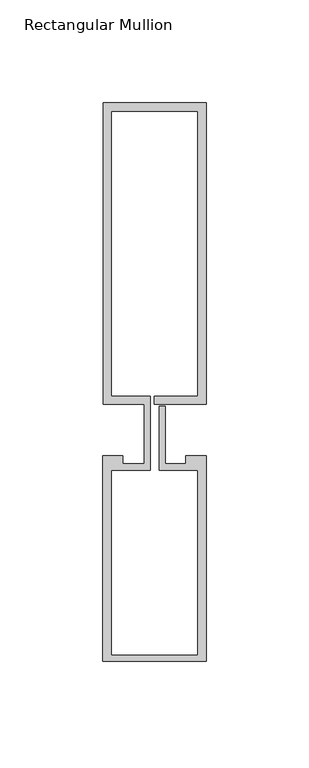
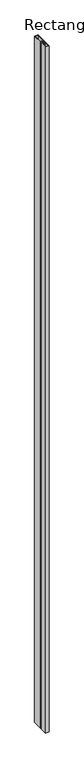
"""IFC4 building model written with IfcOpenShell, lengths in millimetres: member geometry, Rectangular Mullion : Reynaers_CW-50_Mullion-Transom_Vertical_146.5mm_Facecap-02D."""

from ifc_helpers import new_model, si_unit, frame, origin, place, context, project, spatial, polyline, outline, extrude, source, transform, mapped, element, save


def rectangular_mullion_985fd295(model_context):
    return source(origin(), model_context, "Body", "SweptSolid", [
        extrude(outline(polyline([(-24.8004059, 159.0), (25.1995941, 159.0), (25.1995941, 12.5), (0.0, 12.5), (0.0, 16.5), (21.1995941, 16.5), (21.1995941, 155.0), (-20.8004059, 155.0), (-20.8004059, 16.5), (-1.9004059, 16.5), (-1.9004059, -19.5), (-20.994845, -19.5), (-20.994845, -109.4191338), (21.1995941, -109.4191338), (21.1995941, -19.5), (2.2995941, -19.5), (2.2995941, 11.5), (5.2995941, 11.5), (5.2995941, -16.5), (15.2996495, -16.5), (15.2996495, -12.5), (25.1995941, -12.5), (25.1995941, -112.5), (-24.994845, -112.5), (-24.994845, -12.5), (-15.2996495, -12.5), (-15.2996495, -16.5), (-4.9004059, -16.5), (-4.9004059, 12.5), (-24.8004059, 12.5), (-24.8004059, 159.0)])), frame((0.0, 0.0, -10400.0), z_axis=(0.0, 0.0, 1.0), x_axis=(1.0, 0.0, 0.0)), (0.0, 0.0, 1.0), 10400.0),
    ])


if __name__ == "__main__":
    model = new_model("IFC4")
    model_context = context("Model", 3, world=origin())
    ifc_project = project(units=[si_unit("LENGTHUNIT", "METRE", prefix="MILLI")], contexts=[model_context])
    site = spatial("IfcSite", under=ifc_project)
    building = spatial("IfcBuilding", under=site)
    placement = place(None, origin())
    rectangular_mullion_shape = rectangular_mullion_985fd295(model_context)
    element("IfcMember", 1, ObjectType="Rectangular Mullion : Reynaers_CW-50_Mullion-Transom_Vertical_146.5mm_Facecap-02D", at=placement, inside=building, context=model_context, shape_type="MappedRepresentation", body=[
        mapped(rectangular_mullion_shape, transform((0.0, 0.0, 0.0), x_axis=(1.0, 0.0, 0.0), y_axis=(0.0, 1.0, 0.0), z_axis=(0.0, 0.0, 1.0))),
    ])
    save(model, "model.ifc")
